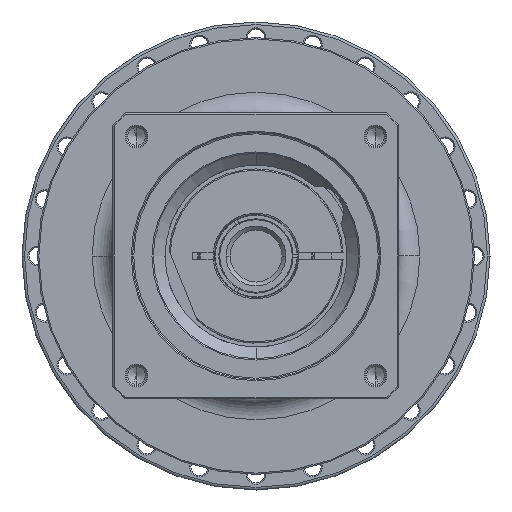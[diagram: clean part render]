
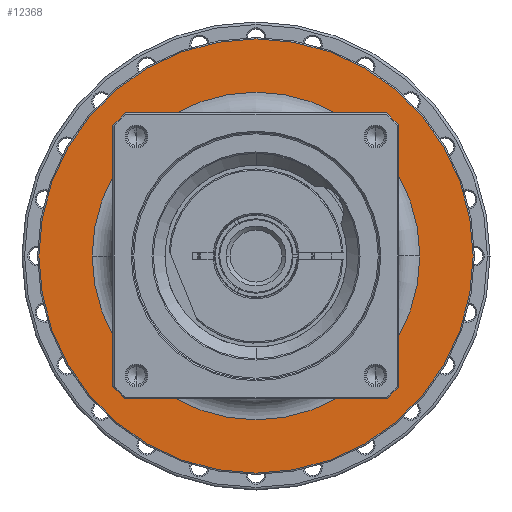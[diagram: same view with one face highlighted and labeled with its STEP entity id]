
A CAD part, left-side view. The second image highlights one B-rep face of the part: STEP entity #12368.
In plain terms, the highlighted planar face has unit normal (-1, 0, 0) as drawn and (1, 0, 0) by its records, which use the part's own axes.
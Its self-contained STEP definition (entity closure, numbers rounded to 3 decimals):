
#11847=CARTESIAN_POINT('',(-9.,0.,0.));
#11848=DIRECTION('',(-1.,0.,0.));
#11849=DIRECTION('',(0.,-1.,0.));
#11850=AXIS2_PLACEMENT_3D('',#11847,#11848,#11849);
#11852=CARTESIAN_POINT('',(-9.,0.,0.));
#11853=DIRECTION('',(-1.,0.,0.));
#11854=DIRECTION('',(0.,1.,0.));
#11855=AXIS2_PLACEMENT_3D('',#11852,#11853,#11854);
#11857=CARTESIAN_POINT('',(-9.,0.,0.));
#11858=DIRECTION('',(-1.,0.,0.));
#11859=DIRECTION('',(0.,-1.,0.));
#11860=AXIS2_PLACEMENT_3D('',#11857,#11858,#11859);
#11862=CARTESIAN_POINT('',(-9.,0.,0.));
#11863=DIRECTION('',(-1.,0.,0.));
#11864=DIRECTION('',(0.,1.,0.));
#11865=AXIS2_PLACEMENT_3D('',#11862,#11863,#11864);
#11931=CARTESIAN_POINT('',(-9.,-83.5,0.));
#11932=CARTESIAN_POINT('',(-9.,83.5,0.));
#11933=VERTEX_POINT('',#11931);
#11934=VERTEX_POINT('',#11932);
#11955=CARTESIAN_POINT('',(-9.,-63.,0.));
#11956=CARTESIAN_POINT('',(-9.,63.,0.));
#11957=VERTEX_POINT('',#11955);
#11958=VERTEX_POINT('',#11956);
#12353=CARTESIAN_POINT('',(-9.,0.,0.));
#12354=DIRECTION('',(1.,0.,0.));
#12355=DIRECTION('',(0.,-1.,0.));
#12356=AXIS2_PLACEMENT_3D('',#12353,#12354,#12355);
#12357=PLANE('',#12356);
#12358=ORIENTED_EDGE('',*,*,#12294,.T.);
#12359=ORIENTED_EDGE('',*,*,#12309,.T.);
#12360=EDGE_LOOP('',(#12358,#12359));
#12361=FACE_OUTER_BOUND('',#12360,.F.);
#12363=ORIENTED_EDGE('',*,*,#12362,.F.);
#12365=ORIENTED_EDGE('',*,*,#12364,.F.);
#12366=EDGE_LOOP('',(#12363,#12365));
#12367=FACE_BOUND('',#12366,.F.);
#12368=ADVANCED_FACE('',(#12361,#12367),#12357,.T.);
#11851=CIRCLE('',#11850,63.);
#11856=CIRCLE('',#11855,63.);
#11861=CIRCLE('',#11860,83.5);
#11866=CIRCLE('',#11865,83.5);
#12294=EDGE_CURVE('',#11933,#11934,#11861,.T.);
#12309=EDGE_CURVE('',#11934,#11933,#11866,.T.);
#12362=EDGE_CURVE('',#11957,#11958,#11851,.T.);
#12364=EDGE_CURVE('',#11958,#11957,#11856,.T.);
